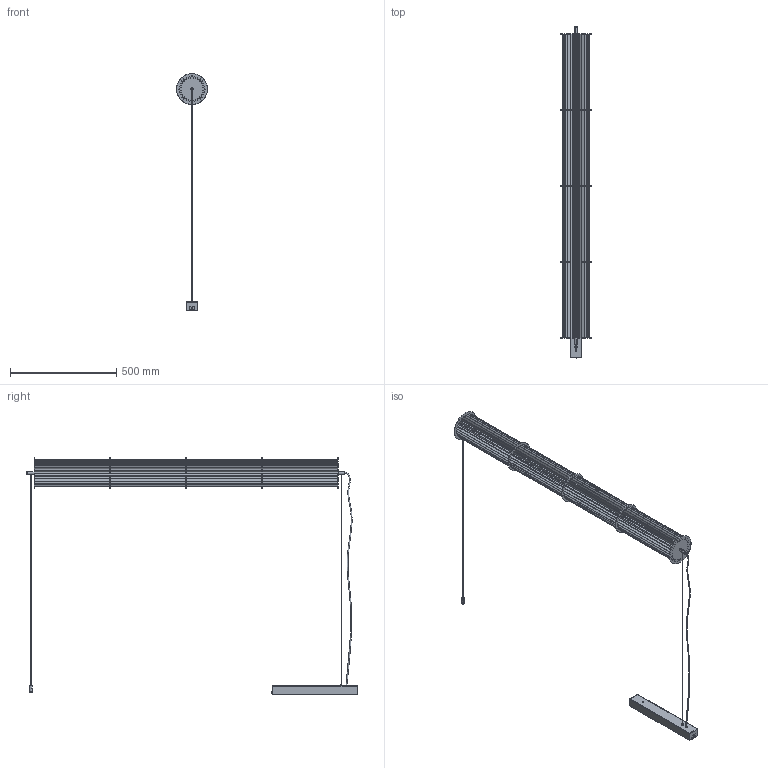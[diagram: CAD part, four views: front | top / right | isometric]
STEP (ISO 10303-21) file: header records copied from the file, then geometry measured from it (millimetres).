
FILE_DESCRIPTION (( 'STEP AP203' ), '1' );
FILE_NAME ('ORI_OR.H143.14_Horitzontal (FORMA).STEP', '2025-07-08T07:52:13', ( '' ), ( '' ), 'SwSTEP 2.0', 'SolidWorks 2013', '' );
FILE_SCHEMA (( 'CONFIG_CONTROL_DESIGN' ));
Length unit declared in the file: millimetre
Products named in the file (14): MS050_Pasacable abierto Ø11xØ4_498070; AR111_Caixa 400x55x40_PERN; TP477_Pantalla plisada ORI (24 plecs); KO219_Cable elèctric ORI horitzontal; GI463-Disc Ø145x2_pas 10; AR056_TRAVESAÑO 398X24 2M4 GALV; GI464-Disc Ø145x2_pas 101; GU023_CABLE ACER Ø1.5-bola Ø5 (BLACK); ORI_OR.H143.14_Horitzontal (FORMA); GU024 - SUSPENSOR M10 Cable Ø1.5 (BLACK); AG019_M4x8; KO059; GI55_FORADAT; GI111_Finalet Ø12x7_M10x1
Assembly tree (23 placements, depth 2):
  ORI_OR.H143.14_Horitzontal (FORMA)
    GI463-Disc Ø145x2_pas 10  x2
    TP477_Pantalla plisada ORI (24 plecs)  x4
    GU024 - SUSPENSOR M10 Cable Ø1.5 (BLACK)  x2
    MS050_Pasacable abierto Ø11xØ4_498070
    AG019_M4x8  x2
    GI464-Disc Ø145x2_pas 101  x3
    GI55_FORADAT  x2
    GI111_Finalet Ø12x7_M10x1
    GU023_CABLE ACER Ø1.5-bola Ø5 (BLACK)  x2
    KO219_Cable elèctric ORI horitzontal
    AR111_Caixa 400x55x40_PERN
    AR056_TRAVESAÑO 398X24 2M4 GALV
    KO059
Bounding box: 145 x 1559.25 x 1112.5 mm (x, y, z)
Volume: 657993.5 mm3; surface area: 2064296.2 mm2
Topology: 23 solids, 23 shells, 1144 faces, 3186 edges, 2096 vertices
Faces by surface type: plane 686, cylinder 422, torus 16, cone 14, bspline 6
Entity records: 15322 total; most frequent: CARTESIAN_POINT 2950, DIRECTION 2298, ORIENTED_EDGE 2176, EDGE_CURVE 1088, AXIS2_PLACEMENT_3D 798, VERTEX_POINT 704, VECTOR 702, LINE 702
